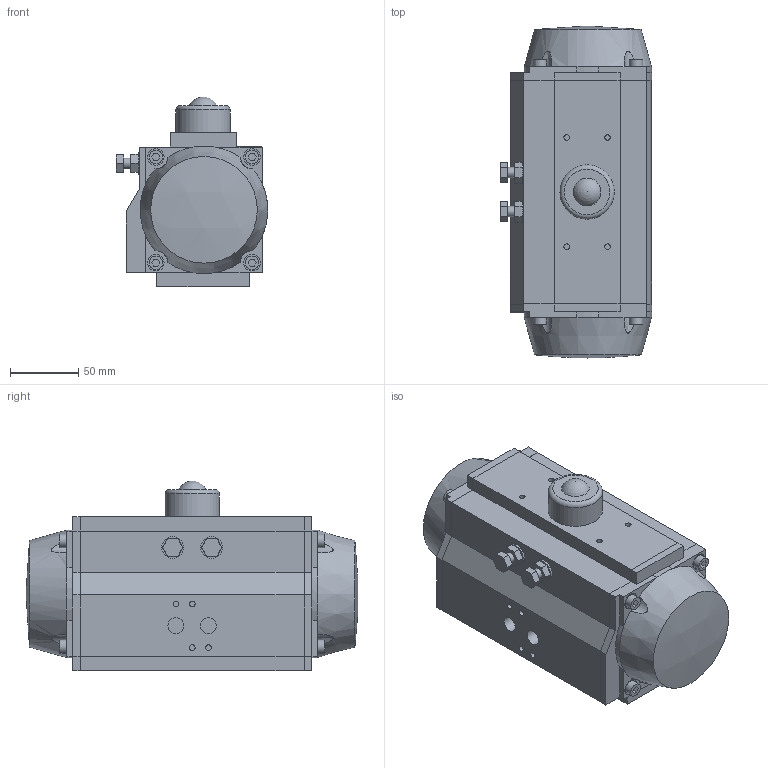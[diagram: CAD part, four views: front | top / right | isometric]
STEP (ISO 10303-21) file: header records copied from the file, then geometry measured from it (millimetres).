
FILE_DESCRIPTION((' '),'2;1');
FILE_NAME('N:\Technical Support\Private\Jomar Valve CAD\Actuation\JV\JV-80FusionCopy.stp','2017-05-26T09:40:29',(' '),(' '),' ','ACIS',' ');
FILE_SCHEMA(('CONFIG_CONTROL_DESIGN'));
Length unit declared in the file: inch
Products named in the file (22): N:\Technical Support\Private\Jomar Valve CAD\Actuation\JV\JV-80FusionCopy.stp; Body1; Body2; Body3; Body4; Body5; Body6; Body7; Body8; Body9; Body10; Body11; Body12; Body13; Body14; Body15; Body16; Body17; Body18; Body19; Body20; Body21
Assembly tree (21 placements, depth 2):
  N:\Technical Support\Private\Jomar Valve CAD\Actuation\JV\JV-80FusionCopy.stp
    Body1
    Body2
    Body3
    Body4
    Body5
    Body6
    Body7
    Body8
    Body9
    Body10
    Body11
    Body12
    Body13
    Body14
    Body15
    Body16
    Body17
    Body18
    Body19
    Body20
    Body21
Bounding box: 111 x 243.18 x 139.06 mm (x, y, z)
Volume: 2184260.2 mm3; surface area: 175941.8 mm2
Topology: 21 solids, 21 shells, 319 faces, 699 edges, 461 vertices
Faces by surface type: plane 175, bspline 98, cylinder 42, sphere 2, cone 1, torus 1
Full cylindrical faces by diameter (mm): 4.064 x2, 4.191 x4, 5.207 x1, 6 x2, 7.62 x2, 8 x2, 9.83 x4, 11.684 x2, 12.065 x4, 13.97 x1, 16.002 x2, 21.336 x1, 36.195 x2, 39.751 x1
Entity records: 12027 total; most frequent: CARTESIAN_POINT 2261, DIRECTION 1316, ORIENTED_EDGE 1286, EDGE_CURVE 643, VECTOR 482, LINE 482, VERTEX_POINT 453, AXIS2_PLACEMENT_3D 417
